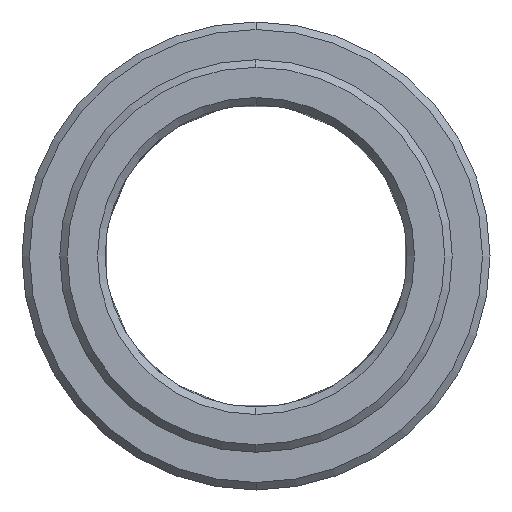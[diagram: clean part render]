
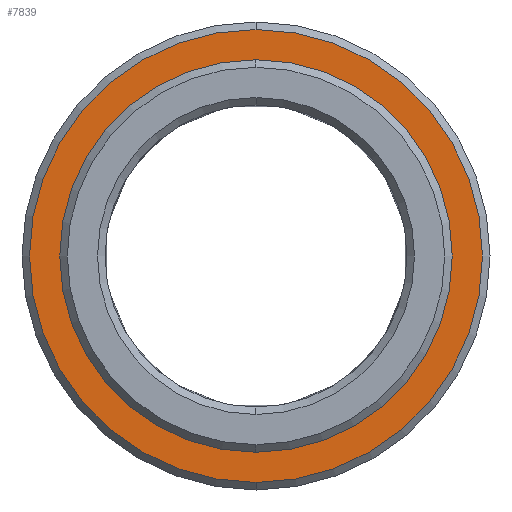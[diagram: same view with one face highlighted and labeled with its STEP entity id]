
A CAD part, left-side view. The second image highlights one B-rep face of the part: STEP entity #7839.
In plain terms, the highlighted planar face has unit normal (-1, 0, 0).
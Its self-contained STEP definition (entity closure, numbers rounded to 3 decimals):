
#5044=CARTESIAN_POINT('',(0.,0.,0.));
#5045=DIRECTION('',(1.,0.,0.));
#5046=DIRECTION('',(0.,0.,1.));
#5047=AXIS2_PLACEMENT_3D('',#5044,#5045,#5046);
#5049=CARTESIAN_POINT('',(0.,0.,0.));
#5050=DIRECTION('',(-1.,0.,0.));
#5051=DIRECTION('',(0.,0.,1.));
#5052=AXIS2_PLACEMENT_3D('',#5049,#5050,#5051);
#5054=CARTESIAN_POINT('',(0.,0.,0.));
#5055=DIRECTION('',(1.,0.,0.));
#5056=DIRECTION('',(0.,0.,-1.));
#5057=AXIS2_PLACEMENT_3D('',#5054,#5055,#5056);
#5059=CARTESIAN_POINT('',(0.,0.,
0.));
#5060=DIRECTION('',(1.,0.,0.));
#5061=DIRECTION('',(0.,0.,1.));
#5062=AXIS2_PLACEMENT_3D('',#5059,#5060,#5061);
#5314=CARTESIAN_POINT('',(0.,0.,-15.));
#5315=CARTESIAN_POINT('',(0.,0.,15.));
#5316=VERTEX_POINT('',#5314);
#5317=VERTEX_POINT('',#5315);
#5458=CARTESIAN_POINT('',(0.,0.,13.));
#5459=CARTESIAN_POINT('',(0.,0.,-13.));
#5460=VERTEX_POINT('',#5458);
#5461=VERTEX_POINT('',#5459);
#7824=CARTESIAN_POINT('',(0.,0.,0.));
#7825=DIRECTION('',(1.,0.,0.));
#7826=DIRECTION('',(0.,0.,1.));
#7827=AXIS2_PLACEMENT_3D('',#7824,#7825,#7826);
#7828=PLANE('',#7827);
#7829=ORIENTED_EDGE('',*,*,#7804,.T.);
#7830=ORIENTED_EDGE('',*,*,#7818,.T.);
#7831=EDGE_LOOP('',(#7829,#7830));
#7832=FACE_OUTER_BOUND('',#7831,.F.);
#7834=ORIENTED_EDGE('',*,*,#7833,.F.);
#7836=ORIENTED_EDGE('',*,*,#7835,.T.);
#7837=EDGE_LOOP('',(#7834,#7836));
#7838=FACE_BOUND('',#7837,.F.);
#7839=ADVANCED_FACE('',(#7832,#7838),#7828,.F.);
#5048=CIRCLE('',#5047,13.);
#5053=CIRCLE('',#5052,13.);
#5058=CIRCLE('',#5057,15.);
#5063=CIRCLE('',#5062,15.);
#7804=EDGE_CURVE('',#5316,#5317,#5058,.T.);
#7818=EDGE_CURVE('',#5317,#5316,#5063,.T.);
#7833=EDGE_CURVE('',#5460,#5461,#5048,.T.);
#7835=EDGE_CURVE('',#5460,#5461,#5053,.T.);
